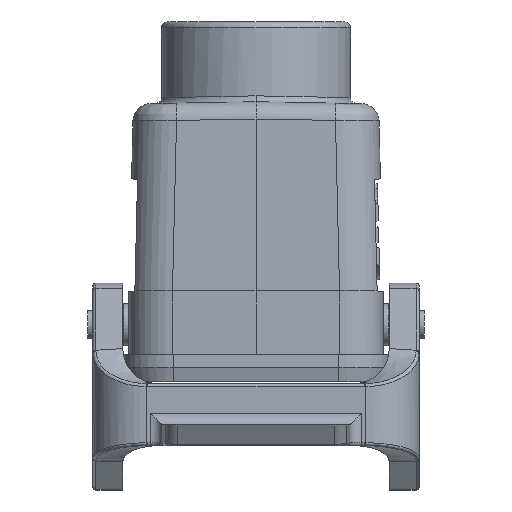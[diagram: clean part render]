
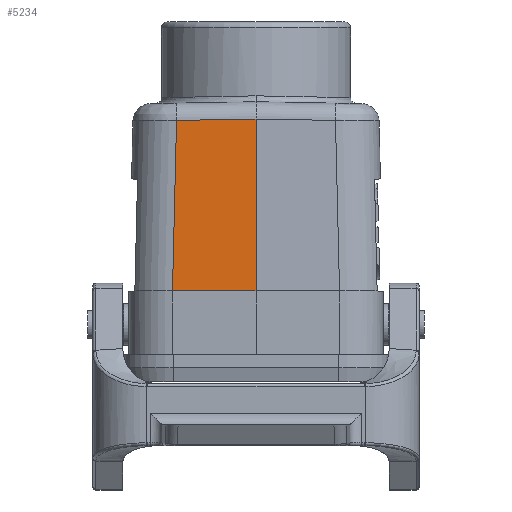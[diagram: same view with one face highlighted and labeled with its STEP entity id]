
A CAD part, left-side view. The second image highlights one B-rep face of the part: STEP entity #5234.
In plain terms, the highlighted planar face has unit normal (-1, 0.018, 0.026).
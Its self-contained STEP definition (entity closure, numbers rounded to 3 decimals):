
#3108=ELLIPSE('',#13225,286.555,7.5);
#3639=LINE('',#17425,#4488);
#3648=LINE('',#17453,#4497);
#3649=LINE('',#17455,#4498);
#3650=LINE('',#17457,#4499);
#4488=VECTOR('',#14345,1.);
#4497=VECTOR('',#14368,1.);
#4498=VECTOR('',#14371,1.);
#4499=VECTOR('',#14372,1.);
#5234=ADVANCED_FACE('',(#6116),#5805,.F.);
#5805=PLANE('',#13236);
#6116=FACE_OUTER_BOUND('',#6643,.T.);
#6643=EDGE_LOOP('',(#7485,#7486,#7487,#7488,#7489));
#7485=ORIENTED_EDGE('',*,*,#11157,.T.);
#7486=ORIENTED_EDGE('',*,*,#11153,.T.);
#7487=ORIENTED_EDGE('',*,*,#11171,.T.);
#7488=ORIENTED_EDGE('',*,*,#11172,.T.);
#7489=ORIENTED_EDGE('',*,*,#11173,.T.);
#10238=VERTEX_POINT('',#17409);
#10239=VERTEX_POINT('',#17411);
#10241=VERTEX_POINT('',#17426);
#10252=VERTEX_POINT('',#17452);
#10253=VERTEX_POINT('',#17456);
#11153=EDGE_CURVE('',#10239,#10238,#3108,.T.);
#11157=EDGE_CURVE('',#10241,#10239,#3639,.T.);
#11171=EDGE_CURVE('',#10238,#10252,#3648,.T.);
#11172=EDGE_CURVE('',#10252,#10253,#3649,.T.);
#11173=EDGE_CURVE('',#10253,#10241,#3650,.T.);
#13225=AXIS2_PLACEMENT_3D('',#17410,#14339,#14340);
#13236=AXIS2_PLACEMENT_3D('',#17458,#14373,#14374);
#14339=DIRECTION('',(-1.,0.017,0.026));
#14340=DIRECTION('',(-0.026,0.,-1.));
#14345=DIRECTION('',(-0.026,0.024,-0.999));
#14368=DIRECTION('',(-0.017,-1.,0.));
#14371=DIRECTION('',(0.026,0.,1.));
#14372=DIRECTION('',(0.017,1.,-0.017));
#14373=DIRECTION('',(1.,-0.017,-0.026));
#14374=DIRECTION('',(0.026,0.,1.));
#17409=CARTESIAN_POINT('',(-36.053,14.131,3.847));
#17410=CARTESIAN_POINT('',(-28.554,14.,290.304));
#17411=CARTESIAN_POINT('',(-36.053,14.134,3.847));
#17425=CARTESIAN_POINT('',(-36.058,14.138,3.676));
#17426=CARTESIAN_POINT('',(-35.31,13.45,32.694));
#17452=CARTESIAN_POINT('',(-36.3,0.,3.85));
#17453=CARTESIAN_POINT('',(-36.3,0.008,3.85));
#17455=CARTESIAN_POINT('',(-35.383,0.,38.85));
#17456=CARTESIAN_POINT('',(-35.539,0.,32.929));
#17457=CARTESIAN_POINT('',(-35.187,20.7,32.568));
#17458=CARTESIAN_POINT('',(-35.383,0.,38.85));
